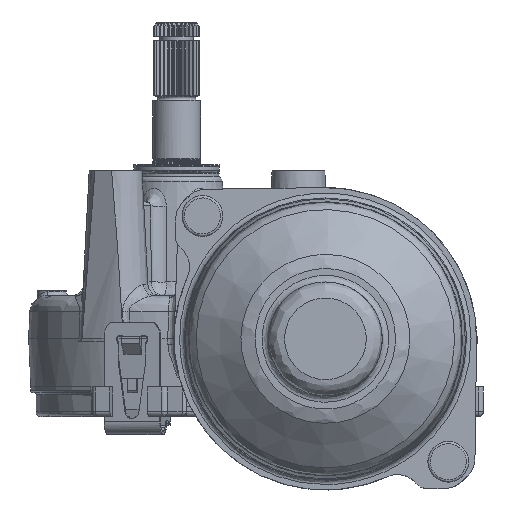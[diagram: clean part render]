
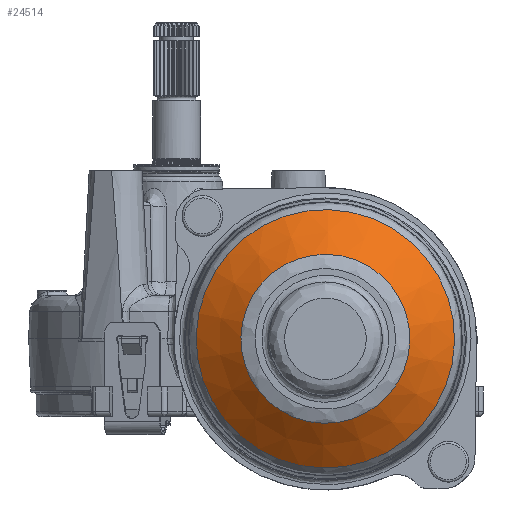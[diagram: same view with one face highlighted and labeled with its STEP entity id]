
A CAD part, left-side view. The second image highlights one B-rep face of the part: STEP entity #24514.
In plain terms, the highlighted conical face has half-angle 52 degrees and reference radius 26.917 mm.
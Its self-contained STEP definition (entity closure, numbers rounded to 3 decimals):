
#5483 = CARTESIAN_POINT ( 'NONE',  ( -108.544, 0., 0. ) ) ;
#5624 = DIRECTION ( 'NONE',  ( 1., 0., 0. ) ) ;
#5651 = DIRECTION ( 'NONE',  ( 0., 0., -1. ) ) ;
#10552 = EDGE_CURVE ( 'NONE', #60155, #60155, #97385, .T. ) ;
#10557 = EDGE_CURVE ( 'NONE', #60161, #60161, #97357, .T. ) ;
#24514 = ADVANCED_FACE ( 'NONE', ( #40175, #40171 ), #40181, .T. ) ;
#26793 = AXIS2_PLACEMENT_3D ( 'NONE', #120967, #120969, #120972 ) ;
#26795 = AXIS2_PLACEMENT_3D ( 'NONE', #121019, #121022, #121024 ) ;
#38065 = ORIENTED_EDGE ( 'NONE', *, *, #10557, .F. ) ;
#38066 = ORIENTED_EDGE ( 'NONE', *, *, #10552, .T. ) ;
#40171 = FACE_OUTER_BOUND ( 'NONE', #46087, .T. ) ;
#40175 = FACE_BOUND ( 'NONE', #46117, .T. ) ;
#40181 = CONICAL_SURFACE ( 'NONE', #116236, 26.917, 0.908 ) ;
#46087 = EDGE_LOOP ( 'NONE', ( #38065 ) ) ;
#46117 = EDGE_LOOP ( 'NONE', ( #38066 ) ) ;
#60155 = VERTEX_POINT ( 'NONE', #137333 ) ;
#60161 = VERTEX_POINT ( 'NONE', #137337 ) ;
#97357 = CIRCLE ( 'NONE', #26795, 26.917 ) ;
#97385 = CIRCLE ( 'NONE', #26793, 17.601 ) ;
#116236 = AXIS2_PLACEMENT_3D ( 'NONE', #5483, #5624, #5651 ) ;
#120967 = CARTESIAN_POINT ( 'NONE',  ( -115.822, 0., 0. ) ) ;
#120969 = DIRECTION ( 'NONE',  ( 1., 0., 0. ) ) ;
#120972 = DIRECTION ( 'NONE',  ( 0., 0.878, -0.479 ) ) ;
#121019 = CARTESIAN_POINT ( 'NONE',  ( -108.544, 0., 0. ) ) ;
#121022 = DIRECTION ( 'NONE',  ( 1., 0., 0. ) ) ;
#121024 = DIRECTION ( 'NONE',  ( 0., 0.878, -0.479 ) ) ;
#137333 = CARTESIAN_POINT ( 'NONE',  ( -115.822, 15.446, -8.438 ) ) ;
#137337 = CARTESIAN_POINT ( 'NONE',  ( -108.544, 23.622, -12.905 ) ) ;
